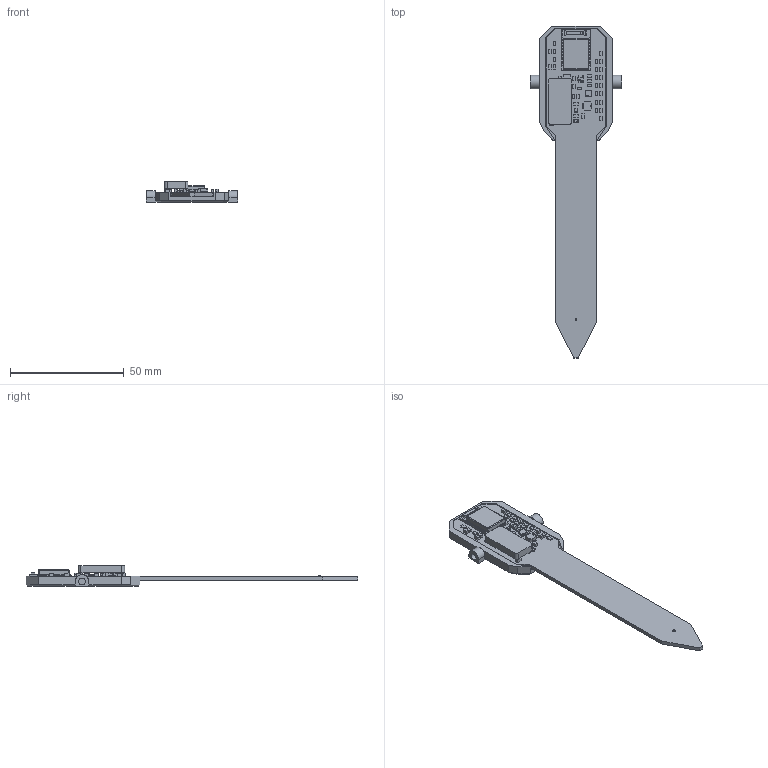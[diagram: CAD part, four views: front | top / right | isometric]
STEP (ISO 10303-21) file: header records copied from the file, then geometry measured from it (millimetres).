
FILE_DESCRIPTION(('Open CASCADE Model'),'2;1');
FILE_NAME('Open CASCADE Shape Model','2026-10-30T16:43:30',('Author'),( 'Open CASCADE'),'Open CASCADE STEP processor 8.0','Open CASCADE 8.0' ,'Unknown');
FILE_SCHEMA(('AP242_MANAGED_MODEL_BASED_3D_ENGINEERING_MIM_LF {1 0 10303 442 1 1 4 }' ));
Length unit declared in the file: millimetre
Products named in the file (3): MSV4 Minimum Profile Arm Base; MSV4 PCB - Corrected 1.6 mm Reference; 10 x 20 x 3 mm Top-Side Battery Placement Reference
Bounding box: 40.2 x 146.2 x 9.15 mm (x, y, z)
Volume: 8574.1 mm3; surface area: 13264.7 mm2
Topology: 235 solids, 235 shells, 3400 faces, 8575 edges, 5672 vertices
Faces by surface type: plane 2441, cylinder 471, bspline 368, extrusion 92, sphere 24, torus 4
Full cylindrical faces by diameter (mm): 0.137 x2, 0.222 x2, 0.268 x2, 2.9 x2
Entity records: 223131 total; most frequent: CARTESIAN_POINT 53428, DIRECTION 28984, VECTOR 20569, LINE 20477, ORIENTED_EDGE 17150, PCURVE 17150, DEFINITIONAL_REPRESENTATION 17150, EDGE_CURVE 8575
